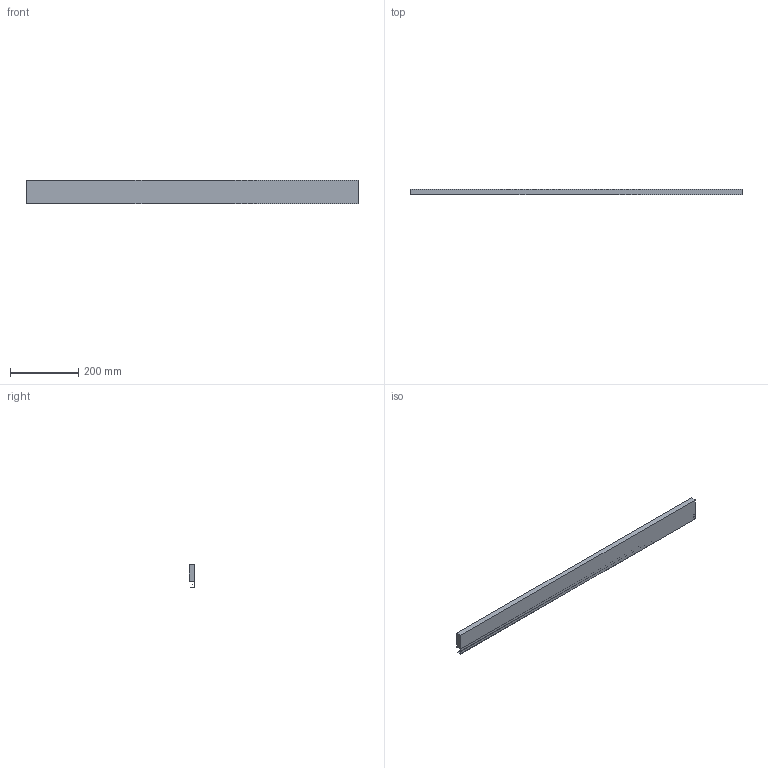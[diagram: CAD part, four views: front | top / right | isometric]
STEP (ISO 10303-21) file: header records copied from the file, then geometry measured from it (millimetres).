
FILE_DESCRIPTION (( 'STEP AP214' ), '1' );
FILE_NAME ('Innenschub-Blendenprofil_KAB1100_S18.step', '2010-09-23T12:27:03', ( 'grass' ), ( '' ), 'SwSTEP 2.0', 'SolidWorks 2010', '' );
FILE_SCHEMA (( 'AUTOMOTIVE_DESIGN' ));
Length unit declared in the file: millimetre
Products named in the file (1): Innenschub-Blendenprofil_KAB1100_S18
Bounding box: 973 x 15.9 x 67.6 mm (x, y, z)
Volume: 806793.3 mm3; surface area: 192595.6 mm2
Topology: 1 solids, 1 shells, 17 faces, 42 edges, 28 vertices
Faces by surface type: plane 15, cylinder 2
Entity records: 534 total; most frequent: CARTESIAN_POINT 88, ORIENTED_EDGE 84, DIRECTION 82, EDGE_CURVE 42, VECTOR 38, LINE 38, VERTEX_POINT 28, AXIS2_PLACEMENT_3D 22
